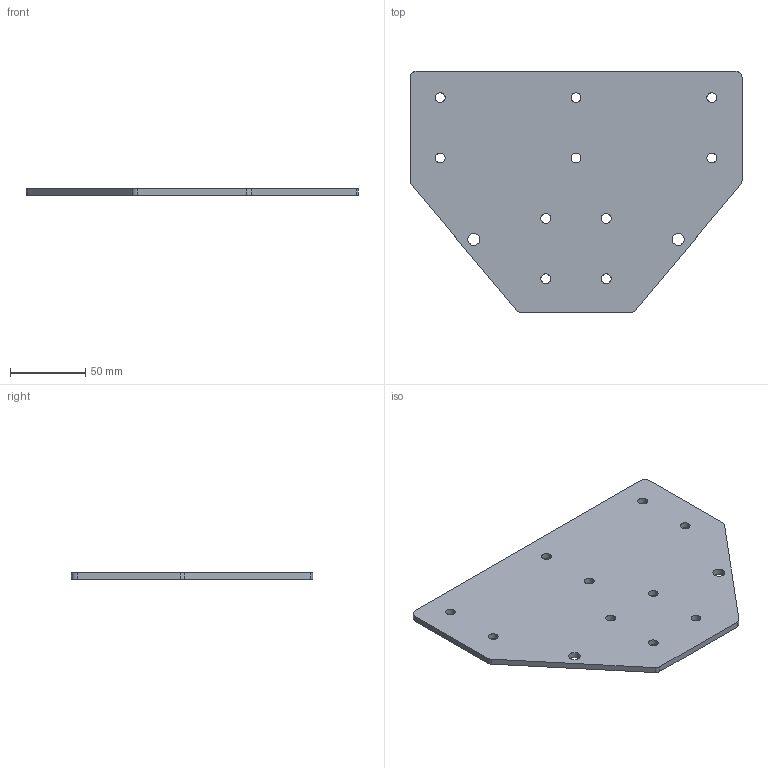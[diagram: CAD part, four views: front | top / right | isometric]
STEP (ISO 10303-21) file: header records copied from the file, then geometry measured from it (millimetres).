
FILE_DESCRIPTION(('STEP AP203'), '1');
FILE_NAME('À00804.38080 _ Ò-ñîåäèíèòåëü', '', ('UNSPECIFIED'), ('UNSPECIFIED'), 'C3D Converter', 'C3D Toolkit', '');
FILE_SCHEMA(('CONFIG_CONTROL_DESIGN'));
Length unit declared in the file: millimetre
Products named in the file (1): А00804.38080
Bounding box: 220 x 160 x 4 mm (x, y, z)
Volume: 114299.8 mm3; surface area: 60824.7 mm2
Topology: 1 solids, 1 shells, 26 faces, 72 edges, 48 vertices
Faces by surface type: cylinder 18, plane 8
Full cylindrical faces by diameter (mm): 6.5 x10, 8 x2
Entity records: 1083 total; most frequent: DIRECTION 150, CARTESIAN_POINT 135, ORIENTED_EDGE 120, AXIS2_PLACEMENT_3D 63, EDGE_LOOP 62, EDGE_CURVE 60, VERTEX_POINT 48, FACE_BOUND 38
